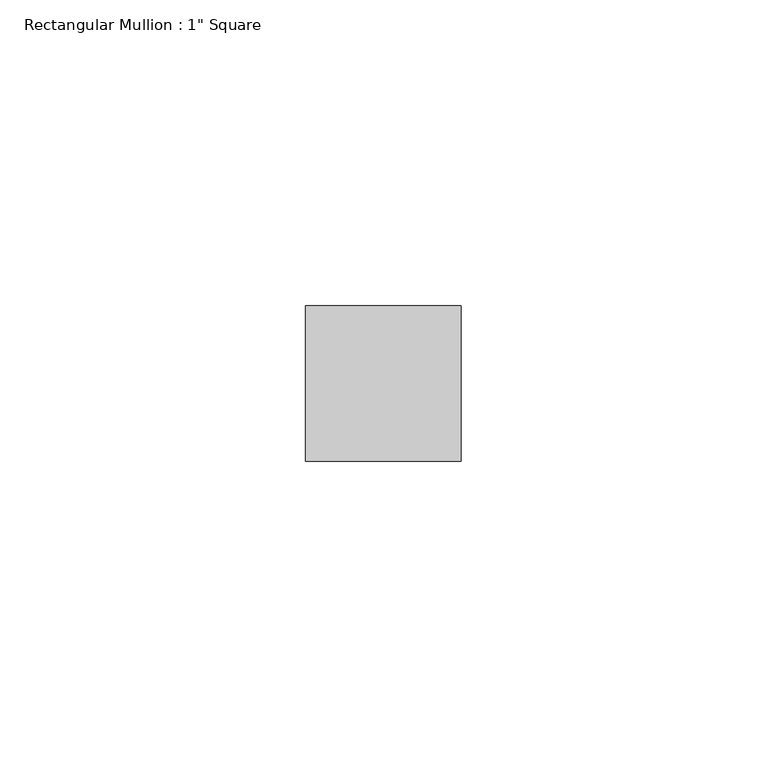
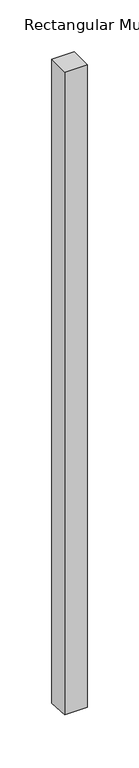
"""IFC4 building model written with IfcOpenShell, lengths in millimetres: member geometry."""

import ifcopenshell
import ifcopenshell.guid

model = None  # the IFC model being written
_history = None  # IfcOwnerHistory: only IFC2X3 demands one
_inside = {}  # id of a spatial element -> (the spatial element, [elements in it])
_under = {}  # id of a project, library or spatial element -> (it, [spatial elements below it])
_declared = {}  # id of a project -> (the project, [libraries it declares])
_typed = {}  # id of a type object -> (the type object, [elements of that type])
_made_of = {}  # id of a material, layer set ... -> (it, [elements and type objects made of it])


def new_model(schema):
    """Start an empty IFC model of exactly this schema.

    Asked for "IFC4X3", IfcOpenShell would pick the latest addendum, in which some entities
    have other attributes; the version numbers below select the first issue.
    IFC2X3 requires an IfcOwnerHistory on every rooted entity: one is made here for all.
    """
    global model, _history
    if schema == "IFC4X3":
        model = ifcopenshell.file(schema_version=(4, 3, 0, 0))
    else:
        model = ifcopenshell.file(schema=schema)
    _inside.clear()
    _under.clear()
    _declared.clear()
    _typed.clear()
    _made_of.clear()
    _history = None
    if model.schema == "IFC2X3":
        org = make("IfcOrganization", Name="unknown")
        user = make(
            "IfcPersonAndOrganization",
            ThePerson=make("IfcPerson", FamilyName="unknown"),
            TheOrganization=org,
        )
        app = make(
            "IfcApplication",
            ApplicationDeveloper=org,
            Version="unknown",
            ApplicationFullName="unknown",
            ApplicationIdentifier="unknown",
        )
        _history = make(
            "IfcOwnerHistory",
            OwningUser=user,
            OwningApplication=app,
            ChangeAction="ADDED",
            CreationDate=0,
        )
    return model


def make(cls, **values):
    """One entity of the class cls with the attributes given. An attribute that is None is left unset."""
    return model.create_entity(
        cls, **{name: value for name, value in values.items() if value is not None}
    )


def rooted(cls, **values):
    """An entity with a GlobalId (a new one), such as an element, a storey or a relation."""
    return make(cls, GlobalId=ifcopenshell.guid.new(), OwnerHistory=_history, **values)


def si_unit(unit_type, name, prefix=None):
    """IfcSIUnit, for example si_unit("LENGTHUNIT", "METRE", prefix="MILLI")."""
    return make("IfcSIUnit", UnitType=unit_type, Prefix=prefix, Name=name)


def assignment(units):
    """IfcUnitAssignment: the units of a project."""
    return None if units is None else make("IfcUnitAssignment", Units=units)


def point(xyz):
    """IfcCartesianPoint."""
    return None if xyz is None else make("IfcCartesianPoint", Coordinates=xyz)


def direction(xyz):
    """IfcDirection."""
    return None if xyz is None else make("IfcDirection", DirectionRatios=xyz)


def frame(location, z_axis=None, x_axis=None):
    """IfcAxis2Placement3D, a coordinate frame: its origin and axes. An axis left out is left unset."""
    return make(
        "IfcAxis2Placement3D",
        Location=point(location),
        Axis=direction(z_axis),
        RefDirection=direction(x_axis),
    )


def origin():
    """The frame at (0, 0, 0) with its axes left unset."""
    return frame((0.0, 0.0, 0.0))


def place(relative_to, where):
    """IfcLocalPlacement: puts the frame where relative to a parent placement (None: the world)."""
    return make(
        "IfcLocalPlacement", PlacementRelTo=relative_to, RelativePlacement=where
    )


def context(
    kind, dimensions, precision=None, world=None, true_north=None, identifier=None
):
    """IfcGeometricRepresentationContext, for example the 3D "Model" context."""
    return make(
        "IfcGeometricRepresentationContext",
        ContextIdentifier=identifier,
        ContextType=kind,
        CoordinateSpaceDimension=dimensions,
        Precision=precision,
        WorldCoordinateSystem=world,
        TrueNorth=true_north,
    )


def project(units=None, contexts=None):
    """IfcProject with its units and contexts."""
    return rooted(
        "IfcProject",
        Name="project",
        RepresentationContexts=contexts,
        UnitsInContext=assignment(units),
    )


def spatial(cls, under=None, at=None, **own):
    """A site, building, storey or space (cls), placed at a placement, below another one or the project."""
    s = rooted(cls, ObjectPlacement=at, **own)
    if under is not None:
        _under.setdefault(under.id(), (under, []))[1].append(s)
    return s


def polyline(points):
    """IfcPolyline through the points."""
    return make("IfcPolyline", Points=[point(p) for p in points])


def outline(outer, holes=None, kind="AREA"):
    """IfcArbitraryClosedProfileDef: a profile drawn as a closed curve; with holes, ...WithVoids."""
    if holes is None:
        return make("IfcArbitraryClosedProfileDef", ProfileType=kind, OuterCurve=outer)
    return make(
        "IfcArbitraryProfileDefWithVoids",
        ProfileType=kind,
        OuterCurve=outer,
        InnerCurves=holes,
    )


def extrude(swept, where, along, depth):
    """IfcExtrudedAreaSolid: the profile swept, set in the frame where, extruded along a direction by depth."""
    return make(
        "IfcExtrudedAreaSolid",
        SweptArea=swept,
        Position=where,
        ExtrudedDirection=direction(along),
        Depth=depth,
    )


def shape(context_of_items, identifier, shape_type, items):
    """IfcShapeRepresentation: the items that make up one representation, for example the "Body"."""
    return make(
        "IfcShapeRepresentation",
        ContextOfItems=context_of_items,
        RepresentationIdentifier=identifier,
        RepresentationType=shape_type,
        Items=items,
    )


def source(mapping_origin, context_of_items, identifier, shape_type, items):
    """IfcRepresentationMap: a shape defined once, which mapped items show again and again."""
    return make(
        "IfcRepresentationMap",
        MappingOrigin=mapping_origin,
        MappedRepresentation=shape(context_of_items, identifier, shape_type, items),
    )


def transform(
    local_origin,
    x_axis=None,
    y_axis=None,
    z_axis=None,
    scale=None,
    scale2=None,
    scale3=None,
    uniform=True,
):
    """IfcCartesianTransformationOperator3D, or its non-uniform kind. x_axis, y_axis, z_axis: its Axis1, 2, 3."""
    if uniform:
        return make(
            "IfcCartesianTransformationOperator3D",
            Axis1=direction(x_axis),
            Axis2=direction(y_axis),
            LocalOrigin=point(local_origin),
            Scale=scale,
            Axis3=direction(z_axis),
        )
    return make(
        "IfcCartesianTransformationOperator3DnonUniform",
        Axis1=direction(x_axis),
        Axis2=direction(y_axis),
        LocalOrigin=point(local_origin),
        Scale=scale,
        Axis3=direction(z_axis),
        Scale2=scale2,
        Scale3=scale3,
    )


def mapped(mapping_source, mapping_target):
    """IfcMappedItem: shows the shape of a source again, moved by a transform."""
    return make(
        "IfcMappedItem", MappingSource=mapping_source, MappingTarget=mapping_target
    )


def made_of(thing, what):
    """Note that an element or type object is made of a material, layer set ...; save() writes the relation."""
    if what is not None:
        _made_of.setdefault(what.id(), (what, []))[1].append(thing)
    return thing


def element(
    cls,
    number,
    at=None,
    inside=None,
    cuts=None,
    type_object=None,
    material=None,
    context=None,
    identifier="Body",
    shape_type=None,
    held_by="IfcProductDefinitionShape",
    body=None,
    shapes=None,
    **own,
):
    """One element of the class cls, such as IfcWall. Its Tag is "e" and its number.

    at: its placement. inside: the storey or other place that contains it. cuts: it is an
    opening in that element (IfcRelVoidsElement). A single representation is given by context,
    identifier, shape_type and body (its items); several are given by shapes. held_by: the class
    of the entity that holds the representations. save() writes the other relations.
    """
    e = rooted(cls, Tag="e%d" % number, ObjectPlacement=at, **own)
    if body is not None:
        shapes = [shape(context, identifier, shape_type, body)]
    if shapes is not None:
        e.Representation = make(held_by, Representations=shapes)
    if inside is not None:
        _inside.setdefault(inside.id(), (inside, []))[1].append(e)
    if cuts is not None:
        rooted(
            "IfcRelVoidsElement", RelatingBuildingElement=cuts, RelatedOpeningElement=e
        )
    if type_object is not None:
        _typed.setdefault(type_object.id(), (type_object, []))[1].append(e)
    return made_of(e, material)


def aggregate(whole, parts):
    """IfcRelAggregates: a whole, such as a stair, and the parts it consists of."""
    return rooted("IfcRelAggregates", RelatingObject=whole, RelatedObjects=parts)


def save(model, path):
    """Write the relations noted so far, then the file.

    IfcRelAggregates (storeys below a building ...), IfcRelContainedInSpatialStructure (elements
    in a storey), IfcRelDefinesByType, IfcRelAssociatesMaterial and IfcRelDeclares: one each for
    every whole, place, type object, material and project.
    """
    for whole, parts in _under.values():
        aggregate(whole, parts)
    for where, things in _inside.values():
        rooted(
            "IfcRelContainedInSpatialStructure",
            RelatedElements=things,
            RelatingStructure=where,
        )
    for kind, things in _typed.values():
        rooted("IfcRelDefinesByType", RelatedObjects=things, RelatingType=kind)
    for what, things in _made_of.values():
        rooted("IfcRelAssociatesMaterial", RelatedObjects=things, RelatingMaterial=what)
    for by, libraries in _declared.values():
        rooted("IfcRelDeclares", RelatingContext=by, RelatedDefinitions=libraries)
    model.write(path)


def member_8ccf5568(model_context):
    return source(origin(), model_context, "Body", "SweptSolid", [
        extrude(outline(polyline([(-12.7, 0.0), (12.7, 0.0), (12.7, -763.0620274), (-12.7, -760.9379726), (-12.7, 0.0)])), frame((-12.7, 0.0, 0.0), z_axis=(1.0, 0.0, 0.0), x_axis=(0.0, 1.0, 0.0)), (0.0, 0.0, 1.0), 25.4),
    ])


if __name__ == "__main__":
    model = new_model("IFC4")
    model_context = context("Model", 3, world=origin())
    ifc_project = project(units=[si_unit("LENGTHUNIT", "METRE", prefix="MILLI")], contexts=[model_context])
    site = spatial("IfcSite", under=ifc_project)
    building = spatial("IfcBuilding", under=site)
    placement = place(None, origin())
    member_shape = member_8ccf5568(model_context)
    element("IfcMember", 1, ObjectType="Rectangular Mullion : 1\" Square", at=placement, inside=building, context=model_context, shape_type="MappedRepresentation", body=[
        mapped(member_shape, transform((0.0, 0.0, 0.0), x_axis=(1.0, 0.0, 0.0), y_axis=(0.0, 1.0, 0.0), z_axis=(0.0, 0.0, 1.0))),
    ])
    save(model, "model.ifc")
